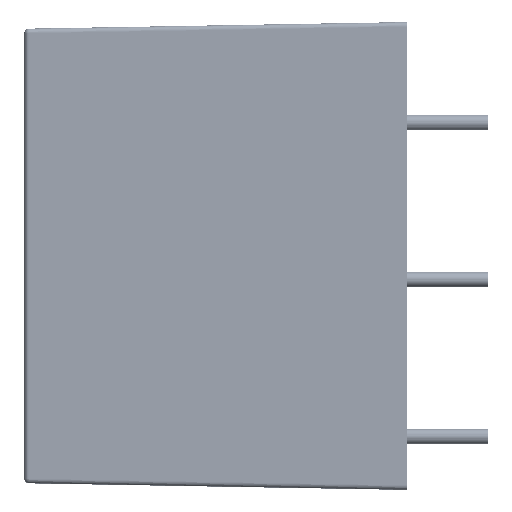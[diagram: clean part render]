
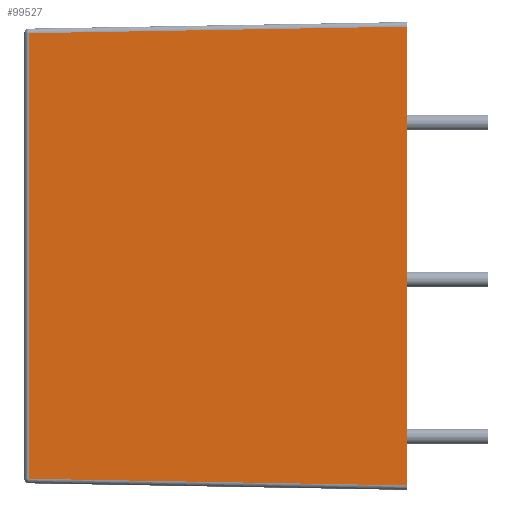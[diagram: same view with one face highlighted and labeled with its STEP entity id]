
A CAD part, left-side view. The second image highlights one B-rep face of the part: STEP entity #99527.
In plain terms, the highlighted planar face has unit normal (-1, 0.018, 0).
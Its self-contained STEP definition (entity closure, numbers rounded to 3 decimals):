
#1776 = LINE ( 'NONE', #85637, #85585 ) ;
#14235 = LINE ( 'NONE', #112546, #51568 ) ;
#16283 = DIRECTION ( 'NONE',  ( 0.017, 1., -0.017 ) ) ;
#18888 = VERTEX_POINT ( 'NONE', #34931 ) ;
#22409 = EDGE_CURVE ( 'NONE', #63545, #123182, #67537, .T. ) ;
#27205 = EDGE_CURVE ( 'NONE', #123182, #61638, #1776, .T. ) ;
#29628 = LINE ( 'NONE', #125061, #85610 ) ;
#30060 = CARTESIAN_POINT ( 'NONE',  ( -26.55, 0., 15.15 ) ) ;
#33262 = DIRECTION ( 'NONE',  ( 0., 0., 1. ) ) ;
#34931 = CARTESIAN_POINT ( 'NONE',  ( -26.55, 0., 14.85 ) ) ;
#40705 = EDGE_CURVE ( 'NONE', #61638, #18888, #14235, .T. ) ;
#44305 = VECTOR ( 'NONE', #49425, 1000. ) ;
#48823 = CARTESIAN_POINT ( 'NONE',  ( -26.55, 0., -14.85 ) ) ;
#49425 = DIRECTION ( 'NONE',  ( 0., 0., -1. ) ) ;
#51568 = VECTOR ( 'NONE', #33262, 1000. ) ;
#55175 = ORIENTED_EDGE ( 'NONE', *, *, #27205, .T. ) ;
#59621 = DIRECTION ( 'NONE',  ( -0.017, -1., 0. ) ) ;
#61012 = ORIENTED_EDGE ( 'NONE', *, *, #22409, .T. ) ;
#61638 = VERTEX_POINT ( 'NONE', #48823 ) ;
#61834 = EDGE_LOOP ( 'NONE', ( #108333, #120135, #61012, #55175 ) ) ;
#63545 = VERTEX_POINT ( 'NONE', #128144 ) ;
#67537 = LINE ( 'NONE', #80609, #44305 ) ;
#72241 = FACE_OUTER_BOUND ( 'NONE', #61834, .T. ) ;
#79533 = DIRECTION ( 'NONE',  ( -1., 0.017, 0. ) ) ;
#80609 = CARTESIAN_POINT ( 'NONE',  ( -26.122, 24.505, 15.15 ) ) ;
#85585 = VECTOR ( 'NONE', #86077, 1000. ) ;
#85610 = VECTOR ( 'NONE', #16283, 1000. ) ;
#85637 = CARTESIAN_POINT ( 'NONE',  ( -26.541, 0.523, -14.841 ) ) ;
#86077 = DIRECTION ( 'NONE',  ( -0.017, -1., -0.017 ) ) ;
#89613 = PLANE ( 'NONE',  #112230 ) ;
#93804 = EDGE_CURVE ( 'NONE', #18888, #63545, #29628, .T. ) ;
#99527 = ADVANCED_FACE ( 'NONE', ( #72241 ), #89613, .T. ) ;
#99647 = CARTESIAN_POINT ( 'NONE',  ( -26.122, 24.505, -14.422 ) ) ;
#108333 = ORIENTED_EDGE ( 'NONE', *, *, #40705, .T. ) ;
#112230 = AXIS2_PLACEMENT_3D ( 'NONE', #30060, #79533, #59621 ) ;
#112546 = CARTESIAN_POINT ( 'NONE',  ( -26.55, 0., 15.15 ) ) ;
#120135 = ORIENTED_EDGE ( 'NONE', *, *, #93804, .T. ) ;
#123182 = VERTEX_POINT ( 'NONE', #99647 ) ;
#125061 = CARTESIAN_POINT ( 'NONE',  ( -26.55, -0.005, 14.85 ) ) ;
#128144 = CARTESIAN_POINT ( 'NONE',  ( -26.122, 24.505, 14.422 ) ) ;
